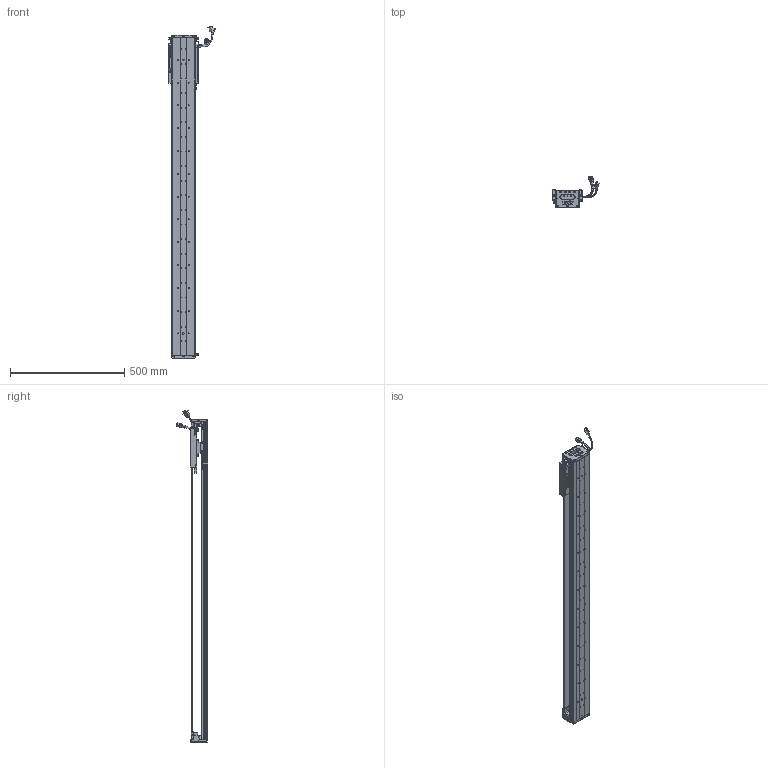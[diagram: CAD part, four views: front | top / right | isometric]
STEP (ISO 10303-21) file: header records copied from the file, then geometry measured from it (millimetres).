
FILE_DESCRIPTION (( 'STEP AP203' ), '1' );
FILE_NAME ('Z2-RY100D-1-L500-B-K.SLDASM_1150.step', '2021-05-17T02:36:02', ( '盈信电脑' ), ( '东莞市道滘镇水果街19号' ), 'SwSTEP 2.0', 'SolidWorks 2016', '' );
FILE_SCHEMA (( 'CONFIG_CONTROL_DESIGN' ));
Length unit declared in the file: millimetre
Products named in the file (36): PBU_SHEET; SHIELDPLATE; LABEL; SCALE; 140蚥薯蝶輸; 140雄赽晤鎢ん堤盄; SEAL-Part-1; HARNESS-Part-2; 榋妏寠巭燃_暯_M2_2; HARNESS-Part-1; PSLH080_PSLF2; Z2-RY100铝滑块（21款）; SCREW-M1.6-3; 覜茼ん672; SCREW-M1.7-1; SCREW-M1.6-2; HOLDER0; Z-RY100D詩湍奻揤裔; Z2-RY100-L500詩湍90mm遵_1150; Z-RY100D覜茼んえ; COVER; Z2-RY100D-1-L500-B-K.SLDASM_1150; Z-RY100D詩湍狟揤裔; 080黍杅芛假蚾釱21遴; SEAL; Z2-RY100D-500-倰第菁釱_1150; SCREW-M1.6-1; LABEL-Part-1; 100-Z-臏賑輸盄裔(21遴); HARNESS; COVER-Part-1; SCREW-M1.7; SCALE-Part-1; SCREW-M1.6; SCALE-Part-2; Z-100詩湍傷裔啣
Assembly tree (43 placements, depth 4):
  Z2-RY100D-1-L500-B-K.SLDASM_1150
    Z2-RY100D-500-倰第菁釱_1150
    Z2-RY100铝滑块（21款）
    PSLH080_PSLF2
      SCALE
        SCALE-Part-1
        SCALE-Part-2
      HARNESS
        HARNESS-Part-1
        HARNESS-Part-2
      LABEL
        LABEL-Part-1
      COVER
        COVER-Part-1
      SEAL
        SEAL-Part-1
      榋妏寠巭燃_暯_M2_2
      SHIELDPLATE
      SCREW-M1.7
      SCREW-M1.7-1
      PBU_SHEET
      SCREW-M1.6
      SCREW-M1.6-1
      SCREW-M1.6-2
      SCREW-M1.6-3
      HOLDER0
    080黍杅芛假蚾釱21遴
    Z-100詩湍傷裔啣  x2
    140蚥薯蝶輸  x2
    覜茼ん672  x3
    Z-RY100D覜茼んえ  x3
    100-Z-臏賑輸盄裔(21遴)
    140雄赽晤鎢ん堤盄
    Z2-RY100-L500詩湍90mm遵_1150
    Z-RY100D詩湍狟揤裔  x2
    Z-RY100D詩湍奻揤裔  x2
Bounding box: 205.84 x 136.11 x 1455.43 mm (x, y, z)
Volume: 2850445.1 mm3; surface area: 1113053.7 mm2
Topology: 38 solids, 38 shells, 2644 faces, 7011 edges, 4448 vertices
Faces by surface type: cylinder 1174, plane 1130, cone 218, torus 69, bspline 53
Entity records: 72919 total; most frequent: CARTESIAN_POINT 15380, DIRECTION 11571, ORIENTED_EDGE 10918, EDGE_CURVE 5459, AXIS2_PLACEMENT_3D 4271, VERTEX_POINT 3516, VECTOR 3029, LINE 3029
